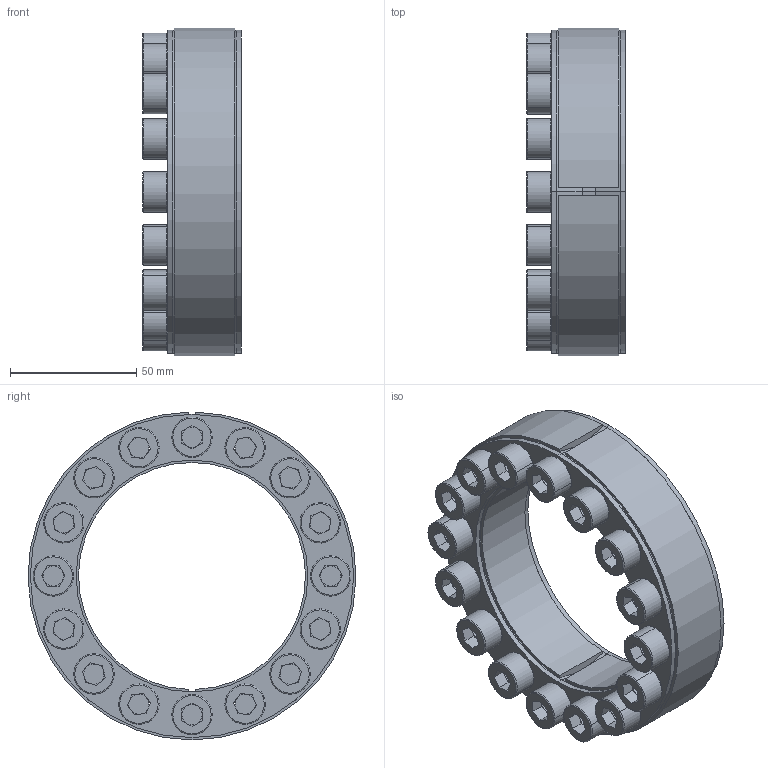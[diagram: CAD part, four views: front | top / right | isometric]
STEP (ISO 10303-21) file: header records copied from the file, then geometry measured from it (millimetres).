
FILE_DESCRIPTION (( 'STEP AP203' ), '1' );
FILE_NAME ('D1-90-130 Assy.STEP', '2017-10-11T06:48:23', ( 'MYCOM' ), ( '' ), 'SwSTEP 2.0', 'SolidWorks 2015', '' );
FILE_SCHEMA (( 'CONFIG_CONTROL_DESIGN' ));
Length unit declared in the file: millimetre
Products named in the file (1): D1-90-130 Assy
Bounding box: 39.2 x 129.99 x 129.98 mm (x, y, z)
Surface area: 72377 mm2 (no closed solid volume)
Topology: 0 solids, 36 shells, 410 faces, 1008 edges, 628 vertices
Faces by surface type: plane 228, cylinder 107, torus 64, cone 11
Entity records: 12131 total; most frequent: DIRECTION 2308, CARTESIAN_POINT 2095, ORIENTED_EDGE 1817, EDGE_CURVE 1008, AXIS2_PLACEMENT_3D 897, VERTEX_POINT 628, VECTOR 514, LINE 514
